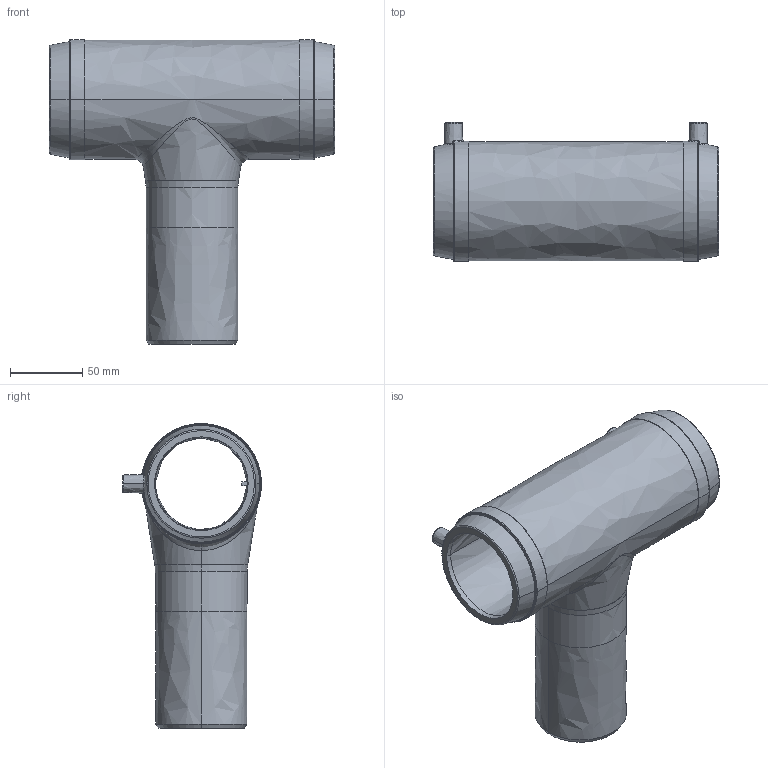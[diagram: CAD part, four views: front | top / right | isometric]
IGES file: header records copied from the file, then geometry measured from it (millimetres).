
Start section:  PTC IGES file: ta_d63-63_01.igs
Global section: file name: ta_d63-63_01.igs; native system: Pro/ENGINEER by Parametric Technology Corporation; preprocessor: 2011490; author: mtunjic; organization: Unknown; date: 20130812.120324; units: millimetre
Bounding box: 197 x 96 x 210.55 mm (x, y, z)
Surface area: 139104.7 mm2 (no closed solid volume)
Topology: 0 solids, 0 shells, 217 faces, 1066 edges, 1066 vertices
Faces by surface type: bspline 217
